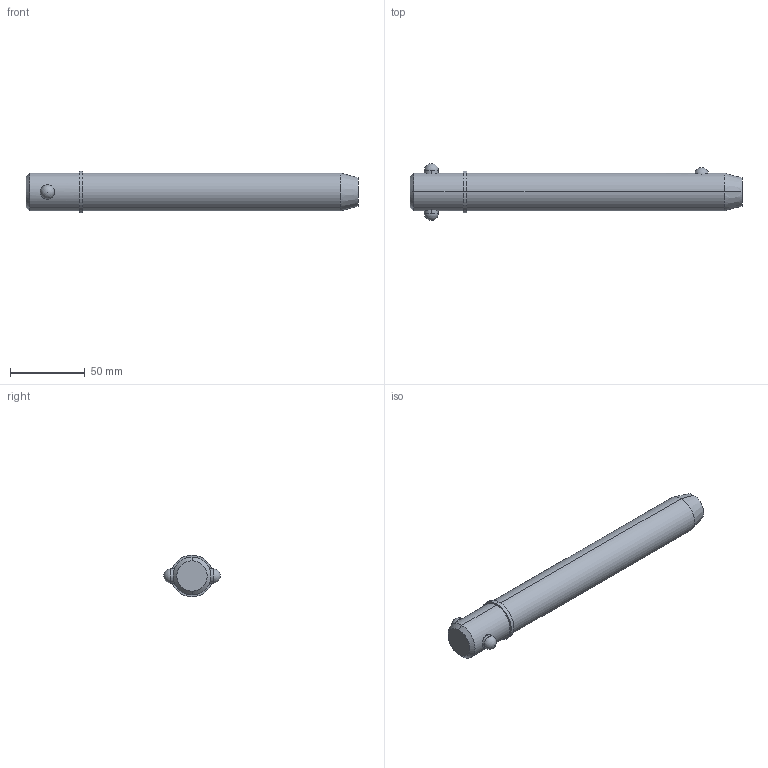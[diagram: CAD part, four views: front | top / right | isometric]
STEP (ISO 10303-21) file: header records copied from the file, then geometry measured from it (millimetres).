
FILE_DESCRIPTION (( 'STEP AP203' ), '1' );
FILE_NAME ('33018.W1060.step', '2024-11-19T17:25:11', ( '' ), ( '' ), 'SwSTEP 2.0', 'SolidWorks 2019', '' );
FILE_SCHEMA (( 'CONFIG_CONTROL_DESIGN' ));
Length unit declared in the file: millimetre
Products named in the file (3): Part1_33018.W1060; Part2_33018.W1060; 33018.W1060
Assembly tree (2 placements, depth 2):
  33018.W1060
    Part1_33018.W1060
    Part2_33018.W1060
Bounding box: 222.25 x 38.1 x 27.94 mm (x, y, z)
Volume: 112141.2 mm3; surface area: 20320.1 mm2
Topology: 2 solids, 2 shells, 22 faces, 47 edges, 30 vertices
Faces by surface type: cylinder 10, sphere 4, cone 4, plane 4
Entity records: 1071 total; most frequent: CARTESIAN_POINT 314, DIRECTION 110, ORIENTED_EDGE 82, AXIS2_PLACEMENT_3D 48, EDGE_CURVE 41, EDGE_LOOP 27, VERTEX_POINT 26, PERSON_AND_ORGANIZATION 26
